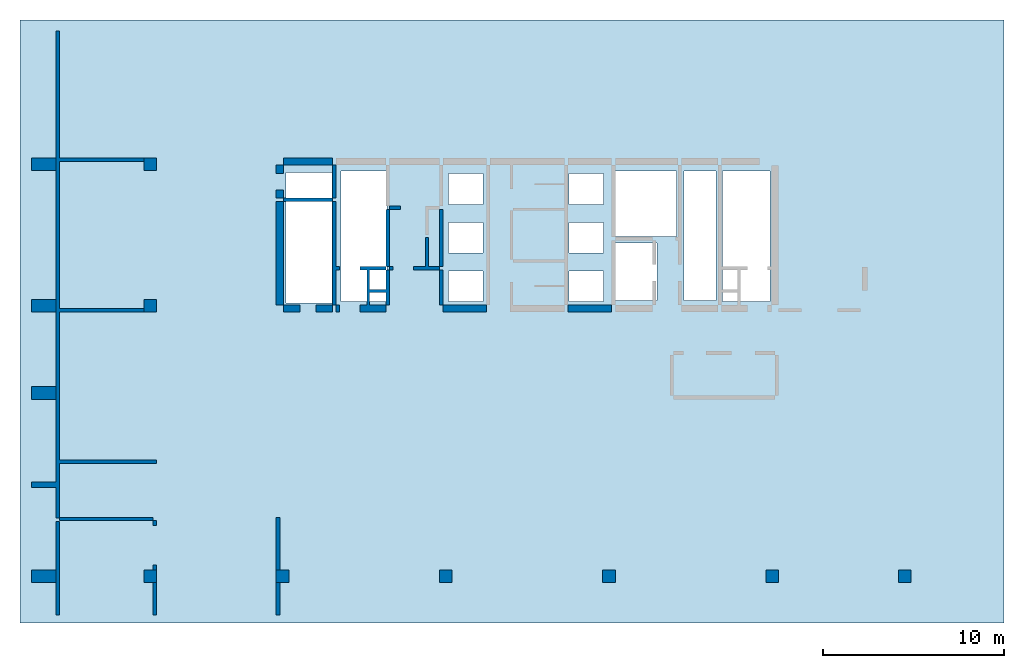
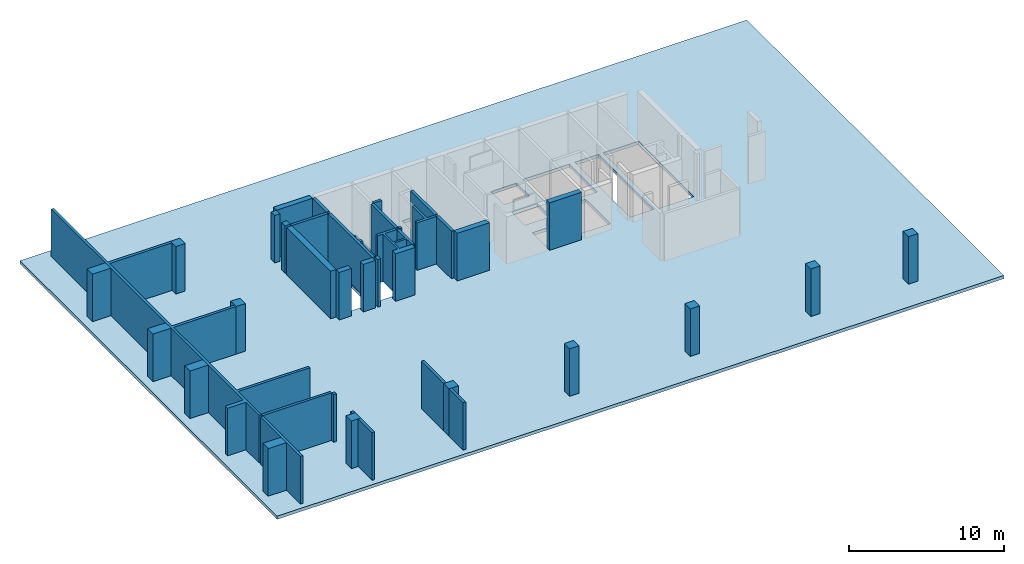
# One storey, part 1 of 2: 26 walls, 12 columns, 1 slab.
"""IFC4 building model written with IfcOpenShell, lengths in millimetres."""

from ifc_helpers import new_model, si_unit, frame, origin, place, context, project, spatial, triangles, element, save


model = new_model("IFC4")

# Units and contexts
model_context = context("Model", 3, precision=0.001, world=origin())
ifc_project = project(units=[si_unit("LENGTHUNIT", "METRE", prefix="MILLI"), si_unit("AREAUNIT", "SQUARE_METRE"), si_unit("VOLUMEUNIT", "CUBIC_METRE")], contexts=[model_context])

# Site, building, storey
site_placement = place(None, origin())
site = spatial("IfcSite", under=ifc_project, at=site_placement, Name="Site", CompositionType="ELEMENT")
building_placement = place(site_placement, origin())
building = spatial("IfcBuilding", under=site, at=building_placement, Name="INNOCEAN", CompositionType="ELEMENT")
storey_placement = place(building_placement, frame((0.0, 0.0, -9000.0)))
storey = spatial("IfcBuildingStorey", under=building, at=storey_placement, Name="B2", CompositionType="ELEMENT", Elevation=-9000.0)

# Columns
column_1_placement = place(storey_placement, origin())
element("IfcColumn", 1, at=column_1_placement, inside=storey, Name="B2_Columns_B2_001", context=model_context, shape_type="Tessellation", body=[
    triangles([(5843.1, 24721.0, 0.0), (5843.1, 24721.0, 3750.0), (5843.1, 25419.5, 0.0), (5843.1, 25419.5, 3750.0), (6541.2, 24721.0, 3750.0), (6541.2, 24721.0, 0.0), (6541.2, 25419.5, 0.0), (6541.2, 25419.5, 3750.0)], [[1, 2, 3], [3, 2, 4], [5, 6, 7], [5, 7, 8], [6, 5, 1], [1, 5, 2], [8, 7, 3], [8, 3, 4], [1, 3, 6], [3, 7, 6], [4, 2, 5], [8, 4, 5]], closed=True),
])
column_2_placement = place(storey_placement, origin())
element("IfcColumn", 2, at=column_2_placement, inside=storey, Name="B2_Columns_B2_002", context=model_context, shape_type="Tessellation", body=[
    triangles([(40114.8, 2023.7, 0.0), (40114.8, 2722.3, 3750.0), (40114.8, 2722.3, 0.0), (40114.8, 2023.7, 3750.0), (40813.0, 2722.3, 3750.0), (40813.0, 2023.7, 0.0), (40813.0, 2722.3, 0.0), (40813.0, 2023.7, 3750.0)], [[1, 2, 3], [1, 4, 2], [5, 6, 7], [8, 6, 5], [6, 4, 1], [6, 8, 4], [2, 7, 3], [5, 7, 2], [3, 7, 1], [1, 7, 6], [5, 2, 4], [5, 4, 8]], closed=True),
])
column_3_placement = place(storey_placement, origin())
element("IfcColumn", 3, at=column_3_placement, inside=storey, Name="B2_Columns_B2_003", context=model_context, shape_type="Tessellation", body=[
    triangles([(5843.1, 16922.4, 0.0), (5843.1, 16922.4, 3750.0), (5843.1, 17620.9, 0.0), (5843.1, 17620.9, 3750.0), (6541.2, 16922.4, 3750.0), (6541.2, 16922.4, 0.0), (6541.2, 17620.9, 0.0), (6541.2, 17620.9, 3750.0)], [[1, 2, 3], [3, 2, 4], [5, 6, 7], [5, 7, 8], [6, 5, 1], [1, 5, 2], [8, 7, 3], [8, 3, 4], [1, 3, 6], [3, 7, 6], [4, 2, 5], [8, 4, 5]], closed=True),
])
column_4_placement = place(storey_placement, origin())
element("IfcColumn", 4, at=column_4_placement, inside=storey, Name="B2_Columns_B2_004", context=model_context, shape_type="Tessellation", body=[
    triangles([(13129.0, 2023.7, 0.0), (13129.0, 2722.3, 3750.0), (13129.0, 2722.3, 0.0), (13129.0, 2023.7, 3750.0), (13827.2, 2722.3, 3750.0), (13827.2, 2023.7, 0.0), (13827.2, 2722.3, 0.0), (13827.2, 2023.7, 3750.0)], [[1, 2, 3], [1, 4, 2], [5, 6, 7], [8, 6, 5], [6, 4, 1], [6, 8, 4], [2, 7, 3], [5, 7, 2], [3, 7, 1], [1, 7, 6], [5, 2, 4], [5, 4, 8]], closed=True),
])
column_5_placement = place(storey_placement, origin())
element("IfcColumn", 5, at=column_5_placement, inside=storey, Name="B2_Columns_B2_005", context=model_context, shape_type="Tessellation", body=[
    triangles([(47413.4, 2023.7, 0.0), (47413.4, 2722.3, 3750.0), (47413.4, 2722.3, 0.0), (47413.4, 2023.7, 3750.0), (48111.6, 2722.3, 3750.0), (48111.6, 2023.7, 0.0), (48111.6, 2722.3, 0.0), (48111.6, 2023.7, 3750.0)], [[1, 2, 3], [1, 4, 2], [5, 6, 7], [8, 6, 5], [6, 4, 1], [6, 8, 4], [2, 7, 3], [5, 7, 2], [3, 7, 1], [1, 7, 6], [5, 2, 4], [5, 4, 8]], closed=True),
])
column_6_placement = place(storey_placement, origin())
element("IfcColumn", 6, at=column_6_placement, inside=storey, Name="B2_Columns_B2_006", context=model_context, shape_type="Tessellation", body=[
    triangles([(5843.1, 2023.7, 0.0), (5843.1, 2722.3, 3750.0), (5843.1, 2722.3, 0.0), (5843.1, 2023.7, 3750.0), (6541.2, 2722.3, 3750.0), (6541.2, 2023.7, 0.0), (6541.2, 2722.3, 0.0), (6541.2, 2023.7, 3750.0)], [[1, 2, 3], [1, 4, 2], [5, 6, 7], [8, 6, 5], [6, 8, 1], [1, 8, 4], [5, 7, 3], [5, 3, 2], [1, 3, 6], [3, 7, 6], [2, 4, 8], [5, 2, 8]], closed=True),
])
column_7_placement = place(storey_placement, origin())
element("IfcColumn", 7, at=column_7_placement, inside=storey, Name="B2_Columns_B2_007", context=model_context, shape_type="Tessellation", body=[
    triangles([(-363.9, 2023.7, 0.0), (-363.9, 2722.3, 3750.0), (-363.9, 2722.3, 0.0), (-363.9, 2023.7, 3750.0), (994.3, 2722.3, 3750.0), (994.3, 2023.7, 0.0), (994.3, 2722.3, 0.0), (994.3, 2023.7, 3750.0)], [[1, 2, 3], [1, 4, 2], [5, 6, 7], [8, 6, 5], [6, 8, 1], [1, 8, 4], [5, 7, 3], [5, 3, 2], [3, 7, 1], [1, 7, 6], [5, 2, 4], [5, 4, 8]], closed=True),
])
column_8_placement = place(storey_placement, origin())
element("IfcColumn", 8, at=column_8_placement, inside=storey, Name="B2_Columns_B2_008", context=model_context, shape_type="Tessellation", body=[
    triangles([(31128.0, 2023.7, 0.0), (31128.0, 2722.3, 3750.0), (31128.0, 2722.3, 0.0), (31128.0, 2023.7, 3750.0), (31826.2, 2722.3, 3750.0), (31826.2, 2023.7, 0.0), (31826.2, 2722.3, 0.0), (31826.2, 2023.7, 3750.0)], [[1, 2, 3], [1, 4, 2], [5, 6, 7], [8, 6, 5], [6, 4, 1], [6, 8, 4], [2, 7, 3], [5, 7, 2], [3, 7, 1], [1, 7, 6], [5, 2, 4], [5, 4, 8]], closed=True),
])
column_9_placement = place(storey_placement, origin())
element("IfcColumn", 9, at=column_9_placement, inside=storey, Name="B2_Columns_B2_009", context=model_context, shape_type="Tessellation", body=[
    triangles([(22128.5, 2023.7, 0.0), (22128.5, 2722.3, 3750.0), (22128.5, 2722.3, 0.0), (22128.5, 2023.7, 3750.0), (22826.7, 2722.3, 3750.0), (22826.7, 2023.7, 0.0), (22826.7, 2722.3, 0.0), (22826.7, 2023.7, 3750.0)], [[1, 2, 3], [1, 4, 2], [5, 6, 7], [8, 6, 5], [6, 4, 1], [6, 8, 4], [2, 7, 3], [5, 7, 2], [3, 7, 1], [1, 7, 6], [5, 2, 4], [5, 4, 8]], closed=True),
])
column_10_placement = place(storey_placement, origin())
element("IfcColumn", 10, at=column_10_placement, inside=storey, Name="B2_Columns_B2_010", context=model_context, shape_type="Tessellation", body=[
    triangles([(-363.9, 24721.0, 0.0), (-363.9, 24721.0, 3750.0), (-363.9, 25419.5, 0.0), (-363.9, 25419.5, 3750.0), (994.3, 24721.0, 3750.0), (994.3, 24721.0, 0.0), (994.3, 25419.5, 0.0), (994.3, 25419.5, 3750.0)], [[1, 2, 3], [3, 2, 4], [5, 6, 7], [5, 7, 8], [6, 5, 1], [1, 5, 2], [8, 7, 3], [8, 3, 4], [3, 7, 1], [1, 7, 6], [8, 4, 2], [8, 2, 5]], closed=True),
])
column_11_placement = place(storey_placement, origin())
element("IfcColumn", 11, at=column_11_placement, inside=storey, Name="B2_Columns_B2_011", context=model_context, shape_type="Tessellation", body=[
    triangles([(-363.9, 12121.3, 0.0), (-363.9, 12121.3, 3750.0), (-363.9, 12819.8, 0.0), (-363.9, 12819.8, 3750.0), (994.3, 12121.3, 3750.0), (994.3, 12121.3, 0.0), (994.3, 12819.8, 0.0), (994.3, 12819.8, 3750.0)], [[1, 2, 3], [3, 2, 4], [5, 6, 7], [5, 7, 8], [6, 5, 1], [1, 5, 2], [8, 7, 3], [8, 3, 4], [3, 7, 1], [1, 7, 6], [8, 4, 2], [8, 2, 5]], closed=True),
])
column_12_placement = place(storey_placement, origin())
element("IfcColumn", 12, at=column_12_placement, inside=storey, Name="B2_Columns_B2_012", context=model_context, shape_type="Tessellation", body=[
    triangles([(-363.9, 16922.4, 0.0), (-363.9, 16922.4, 3750.0), (-363.9, 17620.9, 0.0), (-363.9, 17620.9, 3750.0), (994.3, 16922.4, 3750.0), (994.3, 16922.4, 0.0), (994.3, 17620.9, 0.0), (994.3, 17620.9, 3750.0)], [[1, 2, 3], [3, 2, 4], [5, 6, 7], [5, 7, 8], [6, 5, 1], [1, 5, 2], [8, 7, 3], [8, 3, 4], [3, 7, 1], [1, 7, 6], [8, 4, 2], [8, 2, 5]], closed=True),
])

# Slab
slab_placement = place(storey_placement, origin())
element("IfcSlab", 13, at=slab_placement, inside=storey, Name="B2_Slab_B2_001", context=model_context, shape_type="Tessellation", body=[
    triangles([(-987.250996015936, 33023.3766233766, 0.0), (53241.0358565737, 33023.3766233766, 0.0), (-987.250996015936, 33023.3766233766, -250.0), (53241.0358565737, 33023.3766233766, -250.0), (-987.250996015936, -211.688311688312, 0.0), (-987.250996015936, -211.688311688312, -250.0), (53241.0358565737, -211.688311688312, 0.0), (53241.0358565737, -211.688311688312, -250.0), (34130.6772908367, 20745.4545454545, -250.0), (31733.0677290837, 20745.4545454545, 0.0), (31733.0677290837, 20745.4545454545, -250.0), (34130.6772908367, 20745.4545454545, 0.0), (31733.0677290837, 17570.1298701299, 0.0), (31733.0677290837, 17570.1298701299, -250.0), (34130.6772908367, 17570.1298701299, 0.0), (34130.6772908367, 17570.1298701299, -250.0), (31168.9243027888, 19193.0735930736, 0.0), (29264.9402390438, 19193.0735930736, 0.0), (29264.9402390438, 19193.0735930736, -250.0), (31168.9243027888, 19193.0735930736, -250.0), (31168.9243027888, 17499.5670995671, 0.0), (31168.9243027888, 17499.5670995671, -250.0), (29264.9402390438, 17499.5670995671, 0.0), (29264.9402390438, 17499.5670995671, -250.0), (31168.9243027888, 21874.4588744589, 0.0), (29264.9402390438, 21874.4588744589, 0.0), (29264.9402390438, 21874.4588744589, -250.0), (31168.9243027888, 21874.4588744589, -250.0), (29264.9402390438, 20180.9523809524, 0.0), (29264.9402390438, 20180.9523809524, -250.0), (31168.9243027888, 20180.9523809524, 0.0), (31168.9243027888, 20180.9523809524, -250.0), (24540.2390438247, 19193.0735930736, -250.0), (22636.2549800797, 19193.0735930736, 0.0), (22636.2549800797, 19193.0735930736, -250.0), (24540.2390438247, 19193.0735930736, 0.0), (22636.2549800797, 17499.5670995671, 0.0), (22636.2549800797, 17499.5670995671, -250.0), (24540.2390438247, 17499.5670995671, 0.0), (24540.2390438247, 17499.5670995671, -250.0), (24540.2390438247, 21874.4588744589, -250.0), (22636.2549800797, 21874.4588744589, 0.0), (22636.2549800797, 21874.4588744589, -250.0), (24540.2390438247, 21874.4588744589, 0.0), (22636.2549800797, 20180.9523809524, 0.0), (22636.2549800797, 20180.9523809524, -250.0), (24540.2390438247, 20180.9523809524, 0.0), (24540.2390438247, 20180.9523809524, -250.0), (16219.1235059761, 24626.4069264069, 0.0), (13680.4780876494, 24626.4069264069, 0.0), (13680.4780876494, 24626.4069264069, -250.0), (16219.1235059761, 24626.4069264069, -250.0), (13680.4780876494, 17429.0043290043, 0.0), (13680.4780876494, 17429.0043290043, -250.0), (16219.1235059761, 17429.0043290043, 0.0), (16219.1235059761, 17429.0043290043, -250.0), (40336.2549800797, 24696.9696969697, -250.0), (37727.0916334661, 24696.9696969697, 0.0), (37727.0916334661, 24696.9696969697, -250.0), (40336.2549800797, 24696.9696969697, 0.0), (37727.0916334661, 17499.5670995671, 0.0), (37727.0916334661, 17499.5670995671, -250.0), (40336.2549800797, 17499.5670995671, 0.0), (40336.2549800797, 17499.5670995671, -250.0), (37374.5019920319, 24696.9696969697, 0.0), (35611.5537848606, 24696.9696969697, 0.0), (35611.5537848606, 24696.9696969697, -250.0), (37374.5019920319, 24696.9696969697, -250.0), (35611.5537848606, 17570.1298701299, 0.0), (35611.5537848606, 17570.1298701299, -250.0), (37374.5019920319, 17570.1298701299, 0.0), (37374.5019920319, 17570.1298701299, -250.0), (35188.4462151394, 24696.9696969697, 0.0), (31733.0677290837, 24696.9696969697, 0.0), (31733.0677290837, 24696.9696969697, -250.0), (35188.4462151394, 24696.9696969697, -250.0), (31733.0677290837, 21098.2683982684, 0.0), (31733.0677290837, 21098.2683982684, -250.0), (35188.4462151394, 21098.2683982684, 0.0), (35188.4462151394, 21098.2683982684, -250.0), (31168.9243027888, 24555.8441558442, 0.0), (29264.9402390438, 24555.8441558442, 0.0), (29264.9402390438, 24555.8441558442, -250.0), (31168.9243027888, 24555.8441558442, -250.0), (29264.9402390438, 22862.3376623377, 0.0), (29264.9402390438, 22862.3376623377, -250.0), (31168.9243027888, 22862.3376623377, 0.0), (31168.9243027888, 22862.3376623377, -250.0), (19251.3944223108, 24696.9696969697, 0.0), (16712.7490039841, 24696.9696969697, 0.0), (16712.7490039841, 24696.9696969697, -250.0), (19251.3944223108, 24696.9696969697, -250.0), (16712.7490039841, 17499.5670995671, 0.0), (16712.7490039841, 17499.5670995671, -250.0), (19251.3944223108, 17499.5670995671, 0.0), (19251.3944223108, 17499.5670995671, -250.0), (24540.2390438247, 24555.8441558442, -250.0), (22636.2549800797, 24555.8441558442, 0.0), (22636.2549800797, 24555.8441558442, -250.0), (24540.2390438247, 24555.8441558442, 0.0), (22636.2549800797, 22862.3376623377, 0.0), (22636.2549800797, 22862.3376623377, -250.0), (24540.2390438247, 22862.3376623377, 0.0), (24540.2390438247, 22862.3376623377, -250.0)], [[1, 2, 3], [3, 2, 4], [5, 1, 6], [6, 1, 3], [2, 7, 4], [4, 7, 8], [7, 5, 8], [8, 5, 6], [9, 10, 11], [12, 10, 9], [10, 13, 14], [10, 14, 11], [15, 12, 9], [15, 9, 16], [14, 15, 16], [13, 15, 14], [17, 18, 19], [17, 19, 20], [21, 17, 20], [21, 20, 22], [23, 21, 22], [23, 22, 24], [18, 23, 24], [18, 24, 19], [25, 26, 27], [25, 27, 28], [26, 29, 30], [26, 30, 27], [31, 25, 28], [31, 28, 32], [29, 31, 32], [29, 32, 30], [33, 34, 35], [36, 34, 33], [34, 37, 38], [34, 38, 35], [39, 36, 33], [39, 33, 40], [38, 39, 40], [37, 39, 38], [41, 42, 43], [44, 42, 41], [42, 45, 46], [42, 46, 43], [47, 44, 41], [47, 41, 48], [46, 47, 48], [45, 47, 46], [49, 50, 51], [49, 51, 52], [50, 53, 54], [50, 54, 51], [55, 49, 52], [55, 52, 56], [53, 55, 56], [53, 56, 54], [57, 58, 59], [60, 58, 57], [58, 61, 62], [58, 62, 59], [63, 60, 57], [63, 57, 64], [62, 63, 64], [61, 63, 62], [65, 66, 67], [65, 67, 68], [66, 69, 70], [66, 70, 67], [71, 65, 68], [71, 68, 72], [69, 71, 72], [69, 72, 70], [73, 74, 75], [73, 75, 76], [74, 77, 78], [74, 78, 75], [79, 73, 76], [79, 76, 80], [77, 79, 80], [77, 80, 78], [81, 82, 83], [81, 83, 84], [82, 85, 86], [82, 86, 83], [87, 81, 84], [87, 84, 88], [85, 87, 88], [85, 88, 86], [89, 90, 91], [89, 91, 92], [90, 93, 94], [90, 94, 91], [95, 89, 92], [95, 92, 96], [93, 95, 96], [93, 96, 94], [97, 98, 99], [100, 98, 97], [98, 101, 102], [98, 102, 99], [103, 100, 97], [103, 97, 104], [102, 103, 104], [101, 103, 102], [63, 61, 7], [7, 2, 63], [71, 69, 61], [61, 69, 7], [69, 15, 7], [2, 60, 63], [13, 21, 15], [15, 21, 7], [79, 12, 69], [69, 12, 15], [2, 58, 60], [2, 65, 58], [13, 17, 21], [21, 23, 7], [17, 10, 31], [2, 66, 65], [12, 77, 10], [10, 77, 31], [2, 73, 66], [66, 73, 79], [31, 18, 17], [77, 25, 31], [31, 29, 18], [77, 87, 25], [23, 39, 7], [2, 74, 73], [74, 81, 87], [87, 85, 25], [25, 85, 26], [23, 36, 39], [18, 36, 23], [74, 82, 81], [29, 47, 18], [18, 47, 36], [26, 44, 29], [29, 44, 47], [47, 45, 36], [36, 45, 34], [34, 95, 37], [45, 95, 34], [85, 103, 26], [26, 103, 44], [82, 103, 85], [45, 42, 95], [103, 42, 44], [82, 100, 103], [103, 101, 42], [39, 5, 7], [37, 5, 39], [95, 5, 37], [95, 55, 5], [93, 55, 95], [55, 53, 5], [101, 89, 42], [42, 89, 95], [98, 89, 101], [90, 49, 93], [93, 49, 55], [90, 50, 49], [50, 1, 53], [89, 1, 90], [53, 1, 5], [90, 1, 50], [2, 1, 74], [74, 1, 82], [82, 1, 100], [100, 1, 98], [98, 1, 89], [13, 10, 17], [69, 66, 79], [65, 71, 58], [58, 71, 61], [77, 74, 87], [79, 77, 12], [62, 64, 8], [4, 8, 64], [70, 72, 62], [70, 62, 8], [16, 70, 8], [57, 4, 64], [22, 14, 16], [22, 16, 8], [9, 80, 70], [9, 70, 16], [59, 4, 57], [68, 4, 59], [20, 14, 22], [24, 22, 8], [11, 20, 32], [67, 4, 68], [78, 9, 11], [78, 11, 32], [76, 4, 67], [76, 67, 80], [19, 32, 20], [28, 78, 32], [30, 32, 19], [88, 78, 28], [40, 24, 8], [75, 4, 76], [84, 75, 88], [86, 88, 28], [86, 28, 27], [33, 24, 40], [33, 19, 24], [83, 75, 84], [48, 30, 19], [48, 19, 33], [41, 27, 30], [41, 30, 48], [46, 48, 33], [46, 33, 35], [96, 35, 38], [96, 46, 35], [104, 86, 27], [104, 27, 41], [104, 83, 86], [43, 46, 96], [43, 104, 41], [97, 83, 104], [102, 104, 43], [6, 40, 8], [6, 38, 40], [6, 96, 38], [56, 96, 6], [56, 94, 96], [54, 56, 6], [92, 102, 43], [92, 43, 96], [92, 99, 102], [52, 91, 94], [52, 94, 56], [51, 91, 52], [3, 51, 54], [3, 92, 91], [3, 54, 6], [3, 91, 51], [3, 4, 75], [3, 75, 83], [3, 83, 97], [3, 97, 99], [3, 99, 92], [11, 14, 20], [67, 70, 80], [72, 68, 59], [72, 59, 62], [75, 78, 88], [78, 80, 9]], closed=True),
])

# Walls
wall_1_placement = place(storey_placement, origin())
element("IfcWall", 14, at=wall_1_placement, inside=storey, Name="B2_Walls_B2_001", context=model_context, shape_type="Tessellation", body=[
    triangles([(6338.1, 2023.7, 0.0), (6338.1, 220.2, 0.0), (6338.1, 220.2, 3750.0), (6338.1, 2023.7, 3750.0), (6541.2, 2023.7, 0.0), (6541.2, 2023.7, 3750.0), (6541.2, 220.2, 0.0), (6541.2, 220.2, 3750.0)], [[1, 2, 3], [1, 3, 4], [5, 1, 4], [5, 4, 6], [7, 5, 6], [7, 6, 8], [2, 7, 8], [2, 8, 3], [1, 5, 7], [1, 7, 2], [6, 4, 8], [8, 4, 3]], closed=True),
])
wall_2_placement = place(storey_placement, origin())
element("IfcWall", 15, at=wall_2_placement, inside=storey, Name="B2_Walls_B2_002", context=model_context, shape_type="Tessellation", body=[
    triangles([(13332.1, 220.2, 0.0), (13332.1, 2023.7, 0.0), (13332.1, 2023.7, 3750.0), (13332.1, 220.2, 3750.0), (13129.0, 220.2, 0.0), (13129.0, 220.2, 3750.0), (13129.0, 2023.7, 0.0), (13129.0, 2023.7, 3750.0)], [[1, 2, 3], [1, 3, 4], [5, 1, 4], [5, 4, 6], [7, 5, 6], [7, 6, 8], [2, 7, 8], [2, 8, 3], [7, 2, 1], [7, 1, 5], [3, 8, 4], [4, 8, 6]], closed=True),
])
wall_3_placement = place(storey_placement, origin())
element("IfcWall", 16, at=wall_3_placement, inside=storey, Name="B2_Walls_B2_003", context=model_context, shape_type="Tessellation", body=[
    triangles([(1184.7, 220.2, 0.0), (1184.7, 5376.9, 0.0), (1184.7, 5376.9, 3750.0), (1184.7, 220.2, 3750.0), (994.3, 220.2, 0.0), (994.3, 220.2, 3750.0), (994.3, 5376.9, 0.0), (994.3, 5376.9, 3750.0)], [[1, 2, 3], [1, 3, 4], [5, 1, 4], [5, 4, 6], [7, 5, 6], [7, 6, 8], [2, 7, 8], [2, 8, 3], [7, 2, 1], [7, 1, 5], [3, 8, 4], [4, 8, 6]], closed=True),
])
wall_4_placement = place(storey_placement, origin())
element("IfcWall", 17, at=wall_4_placement, inside=storey, Name="B2_Walls_B2_004", context=model_context, shape_type="Tessellation", body=[
    triangles([(6541.2, 2722.3, 0.0), (6541.2, 2976.3, 0.0), (6541.2, 2976.3, 3750.0), (6541.2, 2722.3, 3750.0), (6338.1, 2722.3, 0.0), (6338.1, 2722.3, 3750.0), (6338.1, 2976.3, 0.0), (6338.1, 2976.3, 3750.0)], [[1, 2, 3], [1, 3, 4], [5, 1, 4], [5, 4, 6], [7, 5, 6], [7, 6, 8], [2, 7, 8], [2, 8, 3], [2, 1, 5], [7, 2, 5], [4, 3, 6], [3, 8, 6]], closed=True),
])
wall_5_placement = place(storey_placement, origin())
element("IfcWall", 18, at=wall_5_placement, inside=storey, Name="B2_Walls_B2_005", context=model_context, shape_type="Tessellation", body=[
    triangles([(13332.1, 2722.3, 0.0), (13332.1, 5618.2, 0.0), (13332.1, 5618.2, 3750.0), (13332.1, 2722.3, 3750.0), (13129.0, 2722.3, 0.0), (13129.0, 2722.3, 3750.0), (13129.0, 5618.2, 0.0), (13129.0, 5618.2, 3750.0)], [[1, 2, 3], [1, 3, 4], [5, 1, 4], [5, 4, 6], [7, 5, 6], [7, 6, 8], [2, 7, 8], [2, 8, 3], [7, 2, 1], [7, 1, 5], [3, 8, 4], [4, 8, 6]], closed=True),
])
wall_6_placement = place(storey_placement, origin())
element("IfcWall", 19, at=wall_6_placement, inside=storey, Name="B2_Walls_B2_006", context=model_context, shape_type="Tessellation", body=[
    triangles([(6541.2, 5173.7, 0.0), (6541.2, 5427.7, 0.0), (6541.2, 5427.7, 3750.0), (6541.2, 5173.7, 3750.0), (6338.1, 5173.7, 0.0), (6338.1, 5173.7, 3750.0), (6338.1, 5427.7, 0.0), (6338.1, 5427.7, 3750.0)], [[1, 2, 3], [1, 3, 4], [5, 1, 4], [5, 4, 6], [7, 5, 6], [7, 6, 8], [2, 7, 8], [2, 8, 3], [2, 1, 5], [7, 2, 5], [4, 3, 6], [3, 8, 6]], closed=True),
])
wall_7_placement = place(storey_placement, origin())
element("IfcWall", 20, at=wall_7_placement, inside=storey, Name="B2_Walls_B2_007", context=model_context, shape_type="Tessellation", body=[
    triangles([(994.3, 5567.4, 0.0), (1184.7, 5567.4, 0.0), (1184.7, 5567.4, 3750.0), (994.3, 5567.4, 3750.0), (994.3, 7269.4, 0.0), (994.3, 7269.4, 3750.0), (-363.9, 7269.4, 0.0), (-363.9, 7269.4, 3750.0), (-363.9, 7270.0, 0.0), (-363.9, 7270.0, 3750.0), (-365.0, 7270.0, 0.0), (-365.0, 7270.0, 3750.0), (-365.0, 7575.0, 0.0), (-365.0, 7575.0, 3750.0), (994.3, 7575.0, 0.0), (994.3, 7575.0, 3750.0), (994.3, 32417.9, 0.0), (994.3, 32417.9, 3750.0), (1184.7, 32417.9, 0.0), (1184.7, 32417.9, 3750.0), (1184.7, 25419.5, 0.0), (1184.7, 25419.5, 3750.0), (5843.1, 25419.5, 0.0), (5843.1, 25419.5, 3750.0), (5843.1, 25216.3, 3750.0), (5843.1, 25216.3, 0.0), (1184.7, 25216.3, 0.0), (1184.7, 25216.3, 3750.0), (1184.7, 17125.6, 3750.0), (1184.7, 17125.6, 0.0), (5843.1, 17125.6, 0.0), (5843.1, 17125.6, 3750.0), (5843.1, 16922.4, 0.0), (5843.1, 16922.4, 3750.0), (1184.7, 16922.4, 0.0), (1184.7, 16922.4, 3750.0), (1184.7, 8768.1, 0.0), (1184.7, 8768.1, 3750.0), (1185.0, 8768.1, 0.0), (1185.0, 8768.1, 3750.0), (1185.0, 8770.0, 0.0), (1185.0, 8770.0, 3750.0), (6540.0, 8770.0, 0.0), (6540.0, 8770.0, 3750.0), (6540.0, 8768.1, 0.0), (6540.0, 8768.1, 3750.0), (6541.2, 8768.1, 0.0), (6541.2, 8768.1, 3750.0), (6541.2, 8577.6, 3750.0), (6541.2, 8577.6, 0.0), (1184.7, 8577.6, 0.0), (1184.7, 8577.6, 3750.0), (1184.7, 5618.2, 0.0), (1184.7, 5618.2, 3750.0), (6338.1, 5618.2, 0.0), (6338.1, 5618.2, 3750.0), (6338.1, 5427.7, 3750.0), (6338.1, 5427.7, 0.0), (1184.7, 5427.7, 0.0), (1184.7, 5427.7, 3750.0)], [[1, 2, 3], [1, 3, 4], [5, 1, 4], [5, 4, 6], [7, 5, 6], [7, 6, 8], [9, 7, 8], [9, 8, 10], [11, 9, 10], [11, 10, 12], [13, 11, 12], [13, 12, 14], [15, 13, 14], [15, 14, 16], [17, 15, 16], [17, 16, 18], [19, 17, 18], [19, 18, 20], [21, 19, 20], [21, 20, 22], [23, 21, 22], [23, 22, 24], [23, 24, 25], [26, 23, 25], [27, 26, 25], [27, 25, 28], [29, 27, 28], [30, 27, 29], [31, 30, 29], [31, 29, 32], [33, 31, 32], [33, 32, 34], [35, 33, 34], [35, 34, 36], [37, 35, 36], [37, 36, 38], [39, 37, 38], [39, 38, 40], [41, 39, 40], [41, 40, 42], [43, 41, 42], [43, 42, 44], [45, 43, 44], [45, 44, 46], [47, 45, 46], [47, 46, 48], [47, 48, 49], [50, 47, 49], [51, 50, 49], [51, 49, 52], [53, 51, 52], [53, 52, 54], [55, 53, 54], [55, 54, 56], [55, 56, 57], [58, 55, 57], [59, 58, 57], [59, 57, 60], [2, 59, 60], [2, 60, 3], [45, 47, 50], [2, 55, 58], [2, 58, 59], [53, 55, 2], [1, 53, 2], [5, 53, 1], [51, 45, 50], [39, 45, 51], [37, 39, 51], [41, 43, 45], [41, 45, 39], [9, 5, 7], [9, 15, 5], [13, 9, 11], [13, 15, 9], [30, 31, 33], [30, 33, 35], [21, 23, 26], [21, 26, 27], [17, 19, 21], [15, 17, 21], [15, 21, 27], [15, 27, 5], [5, 27, 30], [5, 30, 35], [5, 35, 37], [5, 37, 51], [5, 51, 53], [48, 46, 49], [56, 3, 57], [57, 3, 60], [56, 54, 3], [54, 4, 3], [54, 6, 4], [46, 52, 49], [46, 40, 52], [40, 38, 52], [44, 42, 46], [46, 42, 40], [6, 10, 8], [16, 10, 6], [10, 14, 12], [16, 14, 10], [32, 29, 34], [34, 29, 36], [24, 22, 25], [25, 22, 28], [20, 18, 22], [18, 16, 22], [22, 16, 28], [28, 16, 6], [28, 6, 29], [29, 6, 36], [36, 6, 38], [38, 6, 52], [52, 6, 54]], closed=True),
])
wall_8_placement = place(storey_placement, origin())
element("IfcWall", 21, at=wall_8_placement, inside=storey, Name="B2_Walls_B2_008", context=model_context, shape_type="Tessellation", body=[
    triangles([(14436.4, 16922.4, 0.0), (14436.4, 17316.1, 0.0), (14436.4, 17316.1, 3750.0), (14436.4, 16922.4, 3750.0), (13535.2, 16922.4, 0.0), (13535.2, 16922.4, 3750.0), (13535.2, 17316.1, 0.0), (13535.2, 17316.1, 3750.0)], [[1, 2, 3], [1, 3, 4], [5, 1, 4], [5, 4, 6], [7, 5, 6], [7, 6, 8], [2, 7, 8], [2, 8, 3], [7, 2, 1], [7, 1, 5], [3, 8, 4], [4, 8, 6]], closed=True),
])
wall_9_placement = place(storey_placement, origin())
element("IfcWall", 22, at=wall_9_placement, inside=storey, Name="B2_Walls_B2_009", context=model_context, shape_type="Tessellation", body=[
    triangles([(16226.2, 17316.1, 0.0), (15337.6, 17316.1, 0.0), (15337.6, 17316.1, 3750.0), (16226.2, 17316.1, 3750.0), (16226.2, 16922.4, 0.0), (16226.2, 16922.4, 3750.0), (15337.6, 16922.4, 0.0), (15337.6, 16922.4, 3750.0)], [[1, 2, 3], [1, 3, 4], [5, 1, 4], [5, 4, 6], [7, 5, 6], [7, 6, 8], [2, 7, 8], [2, 8, 3], [2, 1, 5], [2, 5, 7], [4, 3, 6], [6, 3, 8]], closed=True),
])
wall_10_placement = place(storey_placement, origin())
element("IfcWall", 23, at=wall_10_placement, inside=storey, Name="B2_Walls_B2_010", context=model_context, shape_type="Tessellation", body=[
    triangles([(16632.4, 16922.4, 0.0), (16632.4, 17316.1, 0.0), (16632.4, 17316.1, 3750.0), (16632.4, 16922.4, 3750.0), (16429.3, 16922.4, 3750.0), (16429.3, 16922.4, 0.0), (16429.3, 17316.1, 0.0), (16429.3, 17316.1, 3750.0)], [[1, 2, 3], [1, 3, 4], [1, 4, 5], [6, 1, 5], [7, 6, 5], [7, 5, 8], [7, 8, 3], [2, 7, 3], [7, 2, 1], [7, 1, 6], [3, 8, 4], [4, 8, 5]], closed=True),
])
wall_11_placement = place(storey_placement, origin())
element("IfcWall", 24, at=wall_11_placement, inside=storey, Name="B2_Walls_B2_011", context=model_context, shape_type="Tessellation", body=[
    triangles([(18130.0, 19245.0, 0.0), (18130.0, 17316.1, 0.0), (18130.0, 17316.1, 3750.0), (18130.0, 19245.0, 3750.0), (17749.4, 17316.1, 0.0), (17749.4, 17316.1, 3750.0), (17749.4, 16922.4, 0.0), (17749.4, 16922.4, 3750.0), (19183.7, 16922.4, 0.0), (19183.7, 16922.4, 3750.0), (19183.7, 17316.1, 0.0), (19183.7, 17316.1, 3750.0), (19374.1, 17316.1, 0.0), (19374.1, 17316.1, 3750.0), (19374.1, 19246.7, 0.0), (19374.1, 19246.7, 3750.0), (19183.7, 19246.7, 0.0), (19183.7, 19246.7, 3750.0), (19183.7, 19449.9, 0.0), (19183.7, 19449.9, 3750.0), (17749.4, 19449.9, 0.0), (17749.4, 19449.9, 3750.0), (17749.4, 19246.7, 0.0), (17749.4, 19246.7, 3750.0), (18130.2, 19246.7, 0.0), (18130.2, 19246.7, 3750.0), (18130.2, 19245.0, 0.0), (18130.2, 19245.0, 3750.0), (18282.5, 17316.1, 0.0), (18282.5, 17316.1, 3750.0), (18282.5, 18014.7, 0.0), (18282.5, 18014.7, 3750.0), (19183.7, 18014.7, 0.0), (19183.7, 18014.7, 3750.0), (19183.7, 18167.1, 0.0), (19183.7, 18167.1, 3750.0), (18282.5, 18167.1, 0.0), (18282.5, 18167.1, 3750.0), (18282.5, 19246.7, 0.0), (18282.5, 19246.7, 3750.0)], [[1, 2, 3], [1, 3, 4], [2, 5, 6], [2, 6, 3], [5, 7, 8], [5, 8, 6], [7, 9, 10], [7, 10, 8], [9, 11, 12], [9, 12, 10], [11, 13, 14], [11, 14, 12], [13, 15, 16], [13, 16, 14], [15, 17, 18], [15, 18, 16], [19, 20, 18], [17, 19, 18], [19, 21, 22], [19, 22, 20], [23, 24, 22], [21, 23, 22], [23, 25, 26], [23, 26, 24], [25, 27, 28], [25, 28, 26], [27, 1, 4], [27, 4, 28], [11, 29, 30], [11, 30, 12], [29, 31, 32], [29, 32, 30], [31, 33, 34], [31, 34, 32], [33, 11, 12], [33, 12, 34], [17, 35, 36], [17, 36, 18], [35, 37, 38], [35, 38, 36], [37, 39, 40], [37, 40, 38], [39, 17, 18], [39, 18, 40], [33, 13, 11], [35, 13, 33], [29, 11, 9], [7, 29, 9], [2, 29, 7], [5, 2, 7], [31, 35, 33], [31, 29, 2], [15, 13, 35], [37, 35, 31], [17, 15, 35], [39, 19, 17], [27, 39, 37], [1, 27, 37], [25, 39, 27], [21, 25, 23], [21, 19, 39], [21, 39, 25], [2, 1, 37], [2, 37, 31], [14, 34, 12], [14, 36, 34], [12, 30, 10], [30, 8, 10], [30, 3, 8], [3, 6, 8], [36, 32, 34], [30, 32, 3], [14, 16, 36], [36, 38, 32], [16, 18, 36], [20, 40, 18], [40, 28, 38], [28, 4, 38], [40, 26, 28], [26, 22, 24], [20, 22, 40], [40, 22, 26], [4, 3, 38], [38, 3, 32]], closed=True),
])
wall_12_placement = place(storey_placement, origin())
element("IfcWall", 25, at=wall_12_placement, inside=storey, Name="B2_Walls_B2_012", context=model_context, shape_type="Tessellation", body=[
    triangles([(16226.2, 17316.1, 0.0), (16429.3, 17316.1, 0.0), (16429.3, 17316.1, 3750.0), (16226.2, 17316.1, 3750.0), (16226.2, 19246.7, 0.0), (16226.2, 19246.7, 3750.0), (16226.2, 19449.9, 3750.0), (16226.2, 19449.9, 0.0), (16226.2, 23019.0, 0.0), (16226.2, 23019.0, 3750.0), (16429.3, 23019.0, 0.0), (16429.3, 23019.0, 3750.0), (16429.3, 19449.9, 0.0), (16429.3, 19449.9, 3750.0), (16632.4, 19449.9, 3750.0), (16632.4, 19449.9, 0.0), (16632.4, 19246.7, 3750.0), (16632.4, 19246.7, 0.0), (16429.3, 19246.7, 3750.0), (16429.3, 19246.7, 0.0)], [[1, 2, 3], [1, 3, 4], [5, 1, 4], [5, 4, 6], [5, 6, 7], [8, 5, 7], [9, 8, 7], [9, 7, 10], [11, 9, 10], [11, 10, 12], [13, 11, 12], [13, 12, 14], [13, 14, 15], [16, 13, 15], [16, 15, 17], [18, 16, 17], [18, 17, 19], [20, 18, 19], [2, 20, 19], [2, 19, 3], [5, 2, 1], [5, 20, 2], [13, 16, 18], [13, 18, 20], [8, 20, 5], [8, 13, 20], [11, 13, 8], [9, 11, 8], [3, 6, 4], [19, 6, 3], [15, 14, 17], [17, 14, 19], [19, 7, 6], [14, 7, 19], [14, 12, 7], [12, 10, 7]], closed=True),
])
wall_13_placement = place(storey_placement, origin())
element("IfcWall", 26, at=wall_13_placement, inside=storey, Name="B2_Walls_B2_013", context=model_context, shape_type="Tessellation", body=[
    triangles([(13535.2, 17316.1, 0.0), (13535.2, 23019.0, 0.0), (13535.2, 23019.0, 3750.0), (13535.2, 17316.1, 3750.0), (13129.0, 17316.1, 0.0), (13129.0, 17316.1, 3750.0), (13129.0, 23019.0, 0.0), (13129.0, 23019.0, 3750.0)], [[1, 2, 3], [1, 3, 4], [5, 1, 4], [5, 4, 6], [7, 5, 6], [7, 6, 8], [2, 7, 8], [2, 8, 3], [7, 2, 1], [7, 1, 5], [3, 8, 4], [4, 8, 6]], closed=True),
])
wall_14_placement = place(storey_placement, origin())
element("IfcWall", 27, at=wall_14_placement, inside=storey, Name="B2_Walls_B2_014", context=model_context, shape_type="Tessellation", body=[
    triangles([(13535.2, 23019.0, 0.0), (13535.2, 23019.0, 3750.0), (13535.2, 23222.2, 3750.0), (13535.2, 23222.2, 0.0), (16226.2, 23222.2, 0.0), (16226.2, 23222.2, 3750.0), (16226.2, 23019.0, 3750.0), (16226.2, 23019.0, 0.0)], [[1, 2, 3], [4, 1, 3], [5, 4, 3], [5, 3, 6], [5, 6, 7], [8, 5, 7], [1, 8, 7], [1, 7, 2], [4, 5, 8], [4, 8, 1], [6, 3, 7], [7, 3, 2]], closed=True),
])
wall_15_placement = place(storey_placement, origin())
element("IfcWall", 28, at=wall_15_placement, inside=storey, Name="B2_Walls_B2_015", context=model_context, shape_type="Tessellation", body=[
    triangles([(13535.2, 23222.2, 0.0), (13535.2, 23666.8, 0.0), (13535.2, 23666.8, 3750.0), (13535.2, 23222.2, 3750.0), (13129.0, 23222.2, 0.0), (13129.0, 23222.2, 3750.0), (13129.0, 23666.8, 0.0), (13129.0, 23666.8, 3750.0)], [[1, 2, 3], [1, 3, 4], [5, 1, 4], [5, 4, 6], [7, 5, 6], [7, 6, 8], [2, 7, 8], [2, 8, 3], [7, 2, 1], [7, 1, 5], [3, 8, 4], [4, 8, 6]], closed=True),
])
wall_16_placement = place(storey_placement, origin())
element("IfcWall", 29, at=wall_16_placement, inside=storey, Name="B2_Walls_B2_016", context=model_context, shape_type="Tessellation", body=[
    triangles([(16429.3, 23222.2, 0.0), (16429.3, 25025.8, 0.0), (16429.3, 25025.8, 3750.0), (16429.3, 23222.2, 3750.0), (16226.2, 23222.2, 0.0), (16226.2, 23222.2, 3750.0), (16226.2, 25025.8, 0.0), (16226.2, 25025.8, 3750.0)], [[1, 2, 3], [1, 3, 4], [5, 1, 4], [5, 4, 6], [7, 5, 6], [7, 6, 8], [2, 7, 8], [2, 8, 3], [7, 2, 1], [7, 1, 5], [3, 8, 4], [4, 8, 6]], closed=True),
])
wall_17_placement = place(storey_placement, origin())
element("IfcWall", 30, at=wall_17_placement, inside=storey, Name="B2_Walls_B2_017", context=model_context, shape_type="Tessellation", body=[
    triangles([(13535.2, 24568.5, 0.0), (13535.2, 25025.8, 0.0), (13535.2, 25025.8, 3750.0), (13535.2, 24568.5, 3750.0), (13129.0, 24568.5, 0.0), (13129.0, 24568.5, 3750.0), (13129.0, 25025.8, 0.0), (13129.0, 25025.8, 3750.0)], [[1, 2, 3], [1, 3, 4], [5, 1, 4], [5, 4, 6], [7, 5, 6], [7, 6, 8], [2, 7, 8], [2, 8, 3], [7, 2, 1], [7, 1, 5], [3, 8, 4], [4, 8, 6]], closed=True),
])
wall_18_placement = place(storey_placement, origin())
element("IfcWall", 31, at=wall_18_placement, inside=storey, Name="B2_Walls_B2_018", context=model_context, shape_type="Tessellation", body=[
    triangles([(16226.2, 25025.8, 0.0), (16226.2, 25419.5, 0.0), (16226.2, 25419.5, 3750.0), (16226.2, 25025.8, 3750.0), (13535.2, 25025.8, 0.0), (13535.2, 25025.8, 3750.0), (13535.2, 25419.5, 0.0), (13535.2, 25419.5, 3750.0)], [[1, 2, 3], [1, 3, 4], [5, 1, 4], [5, 4, 6], [7, 5, 6], [7, 6, 8], [2, 7, 8], [2, 8, 3], [5, 2, 1], [7, 2, 5], [3, 6, 4], [3, 8, 6]], closed=True),
])
wall_19_placement = place(storey_placement, origin())
element("IfcWall", 32, at=wall_19_placement, inside=storey, Name="B2_Walls_B2_020", context=model_context, shape_type="Tessellation", body=[
    triangles([(24730.6, 16922.4, 0.0), (24730.6, 17316.1, 0.0), (24730.6, 17316.1, 3750.0), (24730.6, 16922.4, 3750.0), (22331.6, 16922.4, 3750.0), (22331.6, 16922.4, 0.0), (22331.6, 17316.1, 0.0), (22331.6, 17316.1, 3750.0)], [[1, 2, 3], [1, 3, 4], [1, 4, 5], [6, 1, 5], [7, 6, 5], [7, 5, 8], [7, 8, 3], [2, 7, 3], [7, 2, 1], [7, 1, 6], [3, 8, 4], [4, 8, 5]], closed=True),
])
wall_20_placement = place(storey_placement, origin())
element("IfcWall", 33, at=wall_20_placement, inside=storey, Name="B2_Walls_B2_022", context=model_context, shape_type="Tessellation", body=[
    triangles([(22331.6, 17316.1, 0.0), (22331.6, 19246.7, 0.0), (22331.6, 19246.7, 3750.0), (22331.6, 17316.1, 3750.0), (22128.5, 17316.1, 0.0), (22128.5, 17316.1, 3750.0), (22128.5, 19246.7, 0.0), (22128.5, 19246.7, 3750.0)], [[1, 2, 3], [1, 3, 4], [5, 1, 4], [5, 4, 6], [7, 5, 6], [7, 6, 8], [2, 7, 8], [2, 8, 3], [7, 2, 1], [7, 1, 5], [3, 8, 4], [4, 8, 6]], closed=True),
])
wall_21_placement = place(storey_placement, origin())
element("IfcWall", 34, at=wall_21_placement, inside=storey, Name="B2_Walls_B2_023", context=model_context, shape_type="Tessellation", body=[
    triangles([(19374.1, 19449.9, 0.0), (19374.1, 19449.9, 3750.0), (19577.2, 19449.9, 3750.0), (19577.2, 19449.9, 0.0), (19577.2, 19246.7, 3750.0), (19577.2, 19246.7, 0.0), (19374.1, 19246.7, 3750.0), (19374.1, 19246.7, 0.0)], [[1, 2, 3], [4, 1, 3], [4, 3, 5], [6, 4, 5], [6, 5, 7], [8, 6, 7], [8, 7, 2], [1, 8, 2], [1, 4, 6], [1, 6, 8], [3, 2, 5], [5, 2, 7]], closed=True),
])
wall_22_placement = place(storey_placement, origin())
element("IfcWall", 35, at=wall_22_placement, inside=storey, Name="B2_Walls_B2_024", context=model_context, shape_type="Tessellation", body=[
    triangles([(21366.9, 19449.9, 0.0), (21366.9, 19449.9, 3750.0), (21366.9, 21024.9, 3750.0), (21366.9, 21024.9, 0.0), (21519.3, 21024.9, 0.0), (21519.3, 21024.9, 3750.0), (21519.3, 19449.9, 3750.0), (21519.3, 19449.9, 0.0), (22128.5, 19449.9, 0.0), (22128.5, 19449.9, 3750.0), (22128.5, 19246.7, 3750.0), (22128.5, 19246.7, 0.0), (20694.2, 19246.7, 0.0), (20694.2, 19246.7, 3750.0), (20694.2, 19449.9, 3750.0), (20694.2, 19449.9, 0.0)], [[1, 2, 3], [4, 1, 3], [5, 4, 3], [5, 3, 6], [5, 6, 7], [8, 5, 7], [9, 8, 7], [9, 7, 10], [9, 10, 11], [12, 9, 11], [13, 12, 11], [13, 11, 14], [13, 14, 15], [16, 13, 15], [1, 16, 15], [1, 15, 2], [8, 9, 12], [1, 8, 12], [13, 1, 12], [16, 1, 13], [4, 5, 8], [4, 8, 1], [10, 7, 11], [7, 2, 11], [2, 14, 11], [2, 15, 14], [6, 3, 7], [7, 3, 2]], closed=True),
])
wall_23_placement = place(storey_placement, origin())
element("IfcWall", 36, at=wall_23_placement, inside=storey, Name="B2_Walls_B2_026", context=model_context, shape_type="Tessellation", body=[
    triangles([(19374.1, 19449.9, 0.0), (19374.1, 22574.4, 0.0), (19374.1, 22574.4, 3750.0), (19374.1, 19449.9, 3750.0), (19183.7, 19449.9, 0.0), (19183.7, 19449.9, 3750.0), (19183.7, 22574.4, 0.0), (19183.7, 22574.4, 3750.0)], [[1, 2, 3], [1, 3, 4], [5, 1, 4], [5, 4, 6], [7, 5, 6], [7, 6, 8], [2, 7, 8], [2, 8, 3], [2, 1, 5], [7, 2, 5], [4, 3, 6], [3, 8, 6]], closed=True),
])
wall_24_placement = place(storey_placement, origin())
element("IfcWall", 37, at=wall_24_placement, inside=storey, Name="B2_Walls_B2_027", context=model_context, shape_type="Tessellation", body=[
    triangles([(22331.6, 19449.9, 0.0), (22331.6, 22574.4, 0.0), (22331.6, 22574.4, 3750.0), (22331.6, 19449.9, 3750.0), (22128.5, 19449.9, 0.0), (22128.5, 19449.9, 3750.0), (22128.5, 22574.4, 0.0), (22128.5, 22574.4, 3750.0)], [[1, 2, 3], [1, 3, 4], [5, 1, 4], [5, 4, 6], [7, 5, 6], [7, 6, 8], [2, 7, 8], [2, 8, 3], [2, 1, 5], [7, 2, 5], [4, 3, 6], [3, 8, 6]], closed=True),
])
wall_25_placement = place(storey_placement, origin())
element("IfcWall", 38, at=wall_25_placement, inside=storey, Name="B2_Walls_B2_031", context=model_context, shape_type="Tessellation", body=[
    triangles([(19970.7, 22574.4, 0.0), (19970.7, 22765.0, 0.0), (19970.7, 22765.0, 3750.0), (19970.7, 22574.4, 3750.0), (19374.1, 22574.4, 0.0), (19374.1, 22574.4, 3750.0), (19374.1, 22765.0, 0.0), (19374.1, 22765.0, 3750.0)], [[1, 2, 3], [1, 3, 4], [5, 1, 4], [5, 4, 6], [7, 5, 6], [7, 6, 8], [2, 7, 8], [2, 8, 3], [7, 2, 1], [7, 1, 5], [3, 8, 4], [4, 8, 6]], closed=True),
])
wall_26_placement = place(storey_placement, origin())
element("IfcWall", 39, at=wall_26_placement, inside=storey, Name="B2_Walls_B2_039", context=model_context, shape_type="Tessellation", body=[
    triangles([(31623.1, 16922.4, 0.0), (31623.1, 17316.1, 0.0), (31623.1, 17316.1, 3750.0), (31623.1, 16922.4, 3750.0), (29224.0, 16922.4, 0.0), (29224.0, 16922.4, 3750.0), (29224.0, 17316.1, 0.0), (29224.0, 17316.1, 3750.0)], [[1, 2, 3], [1, 3, 4], [5, 1, 4], [5, 4, 6], [7, 5, 6], [7, 6, 8], [2, 7, 8], [2, 8, 3], [7, 2, 1], [7, 1, 5], [3, 8, 4], [4, 8, 6]], closed=True),
])

save(model, "model.ifc")
